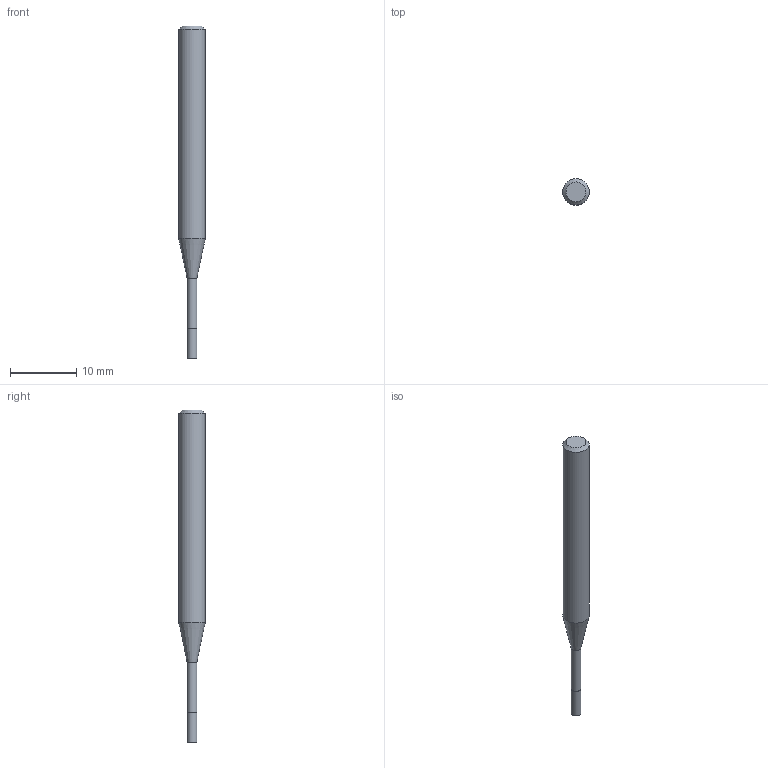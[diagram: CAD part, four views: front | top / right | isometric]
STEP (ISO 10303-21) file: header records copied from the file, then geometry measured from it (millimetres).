
FILE_DESCRIPTION((''),'2;1');
FILE_NAME('C:\Users\nsx150\Desktop\RSE230_20210427\01-00644-01512 RSE230 D1_5X4_5X12.step','2021-05-07T14:53:28',(''),(''),'STEP Write','Mastercam 2021 ... CNC Software, Inc.','');
FILE_SCHEMA(('AUTOMOTIVE_DESIGN'));
Length unit declared in the file: millimetre
Products named in the file (1): None
Bounding box: 4 x 4 x 50 mm (x, y, z)
Volume: 458.6 mm3; surface area: 523.8 mm2
Topology: 2 solids, 2 shells, 9 faces, 12 edges, 7 vertices
Faces by surface type: plane 4, cylinder 3, cone 2
Full cylindrical faces by diameter (mm): 1.45 x1, 1.5 x1, 4 x1
Entity records: 211 total; most frequent: DIRECTION 36, CARTESIAN_POINT 25, AXIS2_PLACEMENT_3D 18, ORIENTED_EDGE 14, EDGE_LOOP 14, STYLED_ITEM 12, ADVANCED_FACE 9, FACE_BOUND 8
